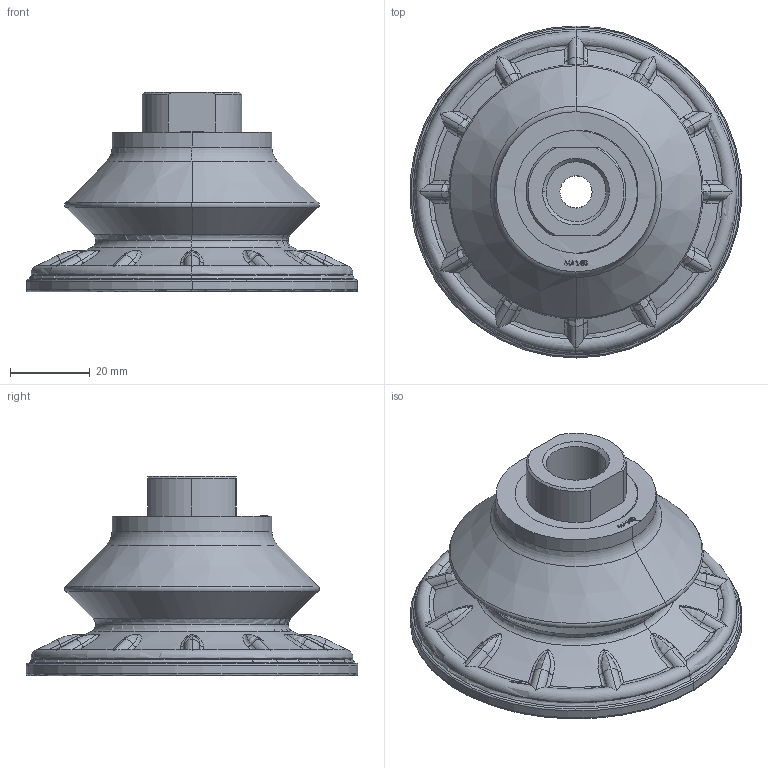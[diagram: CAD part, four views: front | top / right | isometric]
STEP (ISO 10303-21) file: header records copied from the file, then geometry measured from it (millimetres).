
FILE_DESCRIPTION (( 'STEP AP203' ), '1' );
FILE_NAME ('ZSAB80N-F03.STEP', '2022-03-31T14:28:36', ( '' ), ( '' ), 'SwSTEP 2.0', 'SolidWorks 2019', '' );
FILE_SCHEMA (( 'CONFIG_CONTROL_DESIGN' ));
Length unit declared in the file: millimetre
Products named in the file (1): ZSAB80N-F03
Bounding box: 82.83 x 83 x 49.87 mm (x, y, z)
Surface area: 19695.2 mm2 (no closed solid volume)
Topology: 0 solids, 5 shells, 188 faces, 470 edges, 293 vertices
Faces by surface type: bspline 60, torus 54, cylinder 35, plane 24, cone 15
Entity records: 13123 total; most frequent: CARTESIAN_POINT 9845, ORIENTED_EDGE 900, EDGE_CURVE 464, B_SPLINE_CURVE_WITH_KNOTS 428, VERTEX_POINT 285, DIRECTION 258, EDGE_LOOP 202, ADVANCED_FACE 188
